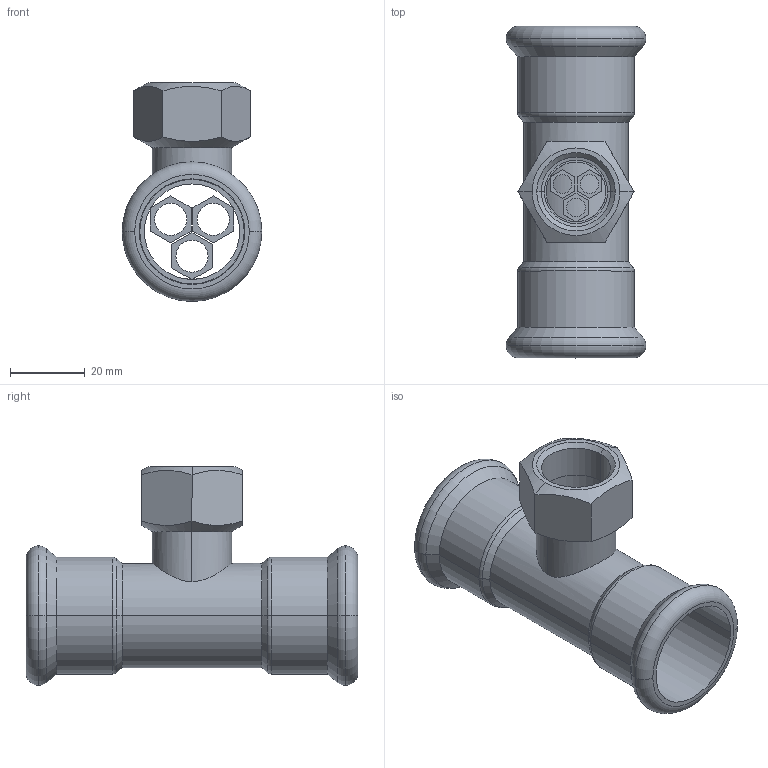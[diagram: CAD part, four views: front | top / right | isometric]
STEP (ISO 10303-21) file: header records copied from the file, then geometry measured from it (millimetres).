
FILE_DESCRIPTION(('OneSpaceDesigner STEP Export'),'2;1');
FILE_NAME('R2718 28xRp1-2x28.stp','2010-06-10T10:03:11',(''),(''),'OneSpace Designer STEP processor for AP214 (Solid Model)','OneSpace Modeling 15.00A 14-Mar-2007 (C) CoCreate Software GmbH','');
FILE_SCHEMA(('AUTOMOTIVE_DESIGN { 1 0 10303 214 1 1 1 1 }'));
Length unit declared in the file: millimetre
Products named in the file (2): R2718_28xRp1-2x28
Assembly tree (1 placements, depth 2):
  R2718_28xRp1-2x28
    R2718_28xRp1-2x28
Bounding box: 37.45 x 89 x 58.73 mm (x, y, z)
Volume: 22075.8 mm3; surface area: 23600.3 mm2
Topology: 1 solids, 1 shells, 181 faces, 454 edges, 289 vertices
Faces by surface type: plane 93, cylinder 56, cone 20, torus 12
Entity records: 6917 total; most frequent: CARTESIAN_POINT 2855, ORIENTED_EDGE 908, DIRECTION 723, EDGE_CURVE 454, VERTEX_POINT 289, VECTOR 279, LINE 279, AXIS2_PLACEMENT_3D 222
